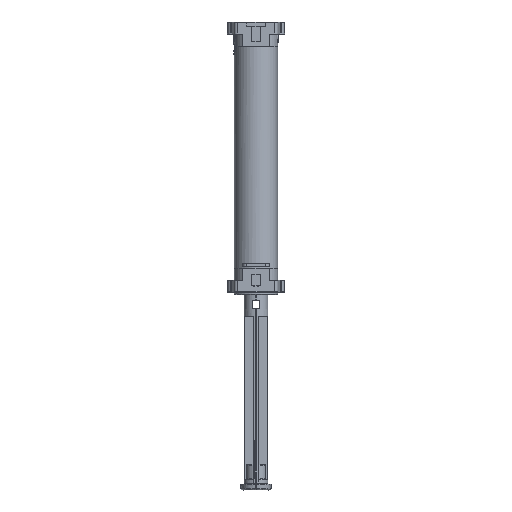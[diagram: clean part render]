
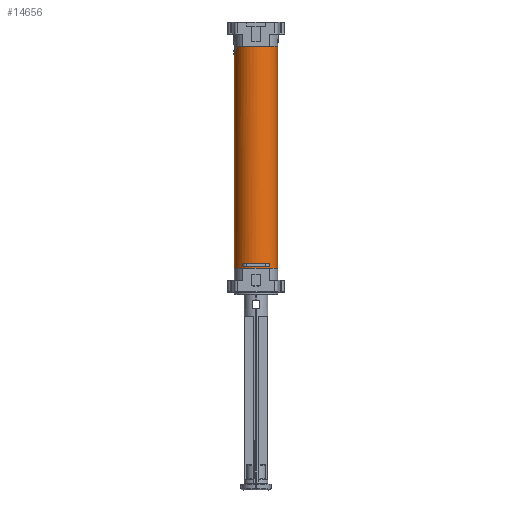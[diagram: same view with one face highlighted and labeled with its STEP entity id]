
A CAD part, front view. The second image highlights one B-rep face of the part: STEP entity #14656.
In plain terms, the highlighted cylindrical face has radius 9 mm (diameter 18 mm), a partial arc.
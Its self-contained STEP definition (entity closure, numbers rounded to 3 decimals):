
#14221=CARTESIAN_POINT(' ',(0.,0.,-56.));
#14226=DIRECTION(' ',(0.,0.,1.));
#14231=DIRECTION(' ',(-1.,0.,0.));
#14236=AXIS2_PLACEMENT_3D(' ',#14221,#14226,#14231);
#14241=CYLINDRICAL_SURFACE(' ',#14236,9.);
#14246=CARTESIAN_POINT(' ',(-10.449,3.643,38.15));
#14251=DIRECTION(' ',(-0.951,-0.307,0.04));
#14256=DIRECTION(' ',(0.248,-0.832,-0.496));
#14261=AXIS2_PLACEMENT_3D(' ',#14246,#14251,#14256);
#14266=CIRCLE('',#14261,8.246);
#14271=CARTESIAN_POINT(' ',(-8.404,-3.22,34.063));
#14272=VERTEX_POINT(' ',#14271);
#14276=CARTESIAN_POINT(' ',(-8.03,-4.065,36.5));
#14277=VERTEX_POINT(' ',#14276);
#14281=EDGE_CURVE(' ',#14272,#14277,#14266,.T.);
#14286=ORIENTED_EDGE(' ',*,*,#14281,.T.);
#14291=CARTESIAN_POINT(' ',(0.,0.,36.5));
#14296=DIRECTION(' ',(0.,0.,1.));
#14301=DIRECTION(' ',(-0.892,-0.452,0.));
#14306=AXIS2_PLACEMENT_3D(' ',#14291,#14296,#14301);
#14311=CIRCLE('',#14306,9.);
#14316=CARTESIAN_POINT(' ',(9.,0.,36.5));
#14317=VERTEX_POINT(' ',#14316);
#14321=EDGE_CURVE(' ',#14277,#14317,#14311,.T.);
#14326=ORIENTED_EDGE(' ',*,*,#14321,.T.);
#14331=CARTESIAN_POINT(' ',(9.,0.,36.5));
#14336=DIRECTION(' ',(0.,0.,-1.));
#14341=VECTOR(' ',#14336,1.);
#14346=LINE('',#14331,#14341);
#14351=CARTESIAN_POINT(' ',(9.,0.,-56.));
#14352=VERTEX_POINT(' ',#14351);
#14356=EDGE_CURVE(' ',#14317,#14352,#14346,.T.);
#14361=ORIENTED_EDGE(' ',*,*,#14356,.T.);
#14366=CARTESIAN_POINT(' ',(0.,0.,-56.));
#14371=DIRECTION(' ',(0.,0.,-1.));
#14376=DIRECTION(' ',(1.,0.,0.));
#14381=AXIS2_PLACEMENT_3D(' ',#14366,#14371,#14376);
#14386=CIRCLE('',#14381,9.);
#14391=CARTESIAN_POINT(' ',(-9.,0.,-56.));
#14392=VERTEX_POINT(' ',#14391);
#14396=EDGE_CURVE(' ',#14352,#14392,#14386,.T.);
#14401=ORIENTED_EDGE(' ',*,*,#14396,.T.);
#14406=CARTESIAN_POINT(' ',(-9.,0.,-56.));
#14411=DIRECTION(' ',(0.,0.,1.));
#14416=VECTOR(' ',#14411,1.);
#14421=LINE('',#14406,#14416);
#14426=CARTESIAN_POINT(' ',(-9.,0.,32.978));
#14427=VERTEX_POINT(' ',#14426);
#14431=EDGE_CURVE(' ',#14392,#14427,#14421,.T.);
#14436=ORIENTED_EDGE(' ',*,*,#14431,.T.);
#14441=CARTESIAN_POINT(' ',(-9.,0.,32.978));
#14446=CARTESIAN_POINT(' ',(-9.,-0.969,32.978));
#14451=CARTESIAN_POINT(' ',(-8.83,-1.985,33.244));
#14456=CARTESIAN_POINT(' ',(-8.484,-3.004,33.905));
#14461=CARTESIAN_POINT(' ',(-8.445,-3.113,33.982));
#14466=CARTESIAN_POINT(' ',(-8.404,-3.22,34.063));
#14471=B_SPLINE_CURVE_WITH_KNOTS('',3,(#14441,#14446,#14451,#14456,#14461,#14466),.UNSPECIFIED.,.F.,.U.,(4,2,4),(0.,0.892,1.),.UNSPECIFIED.);
#14476=EDGE_CURVE(' ',#14427,#14272,#14471,.T.);
#14481=ORIENTED_EDGE(' ',*,*,#14476,.T.);
#14486=EDGE_LOOP(' ',(#14286,#14326,#14361,#14401,#14436,#14481));
#14491=FACE_OUTER_BOUND(' ',#14486,.T.);
#14496=CARTESIAN_POINT(' ',(0.,0.,-55.4));
#14501=DIRECTION(' ',(0.,0.,1.));
#14506=DIRECTION(' ',(-0.632,-0.775,0.));
#14511=AXIS2_PLACEMENT_3D(' ',#14496,#14501,#14506);
#14516=CIRCLE('',#14511,9.);
#14521=CARTESIAN_POINT(' ',(-5.684,-6.978,-55.4));
#14522=VERTEX_POINT(' ',#14521);
#14526=CARTESIAN_POINT(' ',(5.684,-6.978,-55.4));
#14527=VERTEX_POINT(' ',#14526);
#14531=EDGE_CURVE(' ',#14522,#14527,#14516,.T.);
#14536=ORIENTED_EDGE(' ',*,*,#14531,.T.);
#14541=CARTESIAN_POINT(' ',(5.684,-6.978,-55.4));
#14546=DIRECTION(' ',(0.,0.,1.));
#14551=VECTOR(' ',#14546,1.);
#14556=LINE('',#14541,#14551);
#14561=CARTESIAN_POINT(' ',(5.684,-6.978,-53.9));
#14562=VERTEX_POINT(' ',#14561);
#14566=EDGE_CURVE(' ',#14527,#14562,#14556,.T.);
#14571=ORIENTED_EDGE(' ',*,*,#14566,.T.);
#14576=CARTESIAN_POINT(' ',(0.,0.,-53.9));
#14581=DIRECTION(' ',(0.,0.,-1.));
#14586=DIRECTION(' ',(0.632,-0.775,0.));
#14591=AXIS2_PLACEMENT_3D(' ',#14576,#14581,#14586);
#14596=CIRCLE('',#14591,9.);
#14601=CARTESIAN_POINT(' ',(-5.684,-6.978,-53.9));
#14602=VERTEX_POINT(' ',#14601);
#14606=EDGE_CURVE(' ',#14562,#14602,#14596,.T.);
#14611=ORIENTED_EDGE(' ',*,*,#14606,.T.);
#14616=CARTESIAN_POINT(' ',(-5.684,-6.978,-53.9));
#14621=DIRECTION(' ',(0.,0.,-1.));
#14626=VECTOR(' ',#14621,1.);
#14631=LINE('',#14616,#14626);
#14636=EDGE_CURVE(' ',#14602,#14522,#14631,.T.);
#14641=ORIENTED_EDGE(' ',*,*,#14636,.T.);
#14646=EDGE_LOOP(' ',(#14536,#14571,#14611,#14641));
#14651=FACE_BOUND(' ',#14646,.T.);
#14656=ADVANCED_FACE('face_4',(#14491,#14651),#14241,.F.);
